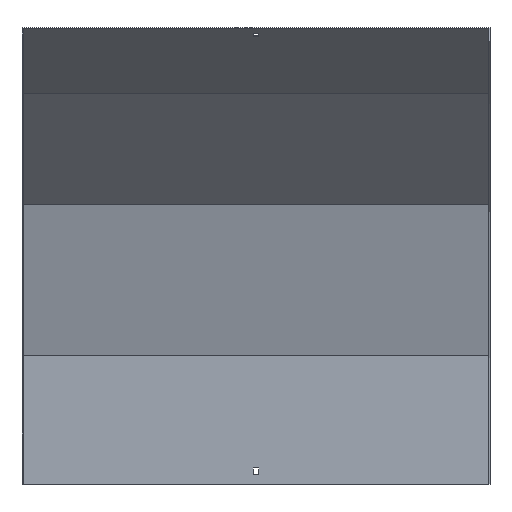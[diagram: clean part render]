
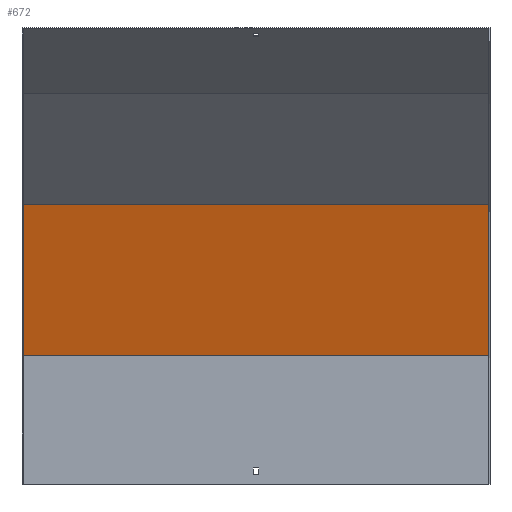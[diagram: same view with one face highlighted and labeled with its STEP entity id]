
A CAD part, front view. The second image highlights one B-rep face of the part: STEP entity #672.
In plain terms, the highlighted planar face has unit normal (0, -0.966, -0.259).
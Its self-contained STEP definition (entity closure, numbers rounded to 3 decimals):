
#32 = VECTOR ( 'NONE', #581, 1000. ) ;
#40 = VECTOR ( 'NONE', #953, 1000. ) ;
#43 = EDGE_CURVE ( 'NONE', #499, #482, #696, .T. ) ;
#51 = ORIENTED_EDGE ( 'NONE', *, *, #940, .T. ) ;
#139 = DIRECTION ( 'NONE',  ( 0., -0.966, -0.259 ) ) ;
#167 = DIRECTION ( 'NONE',  ( -1., 0., 0. ) ) ;
#219 = ORIENTED_EDGE ( 'NONE', *, *, #43, .F. ) ;
#225 = CARTESIAN_POINT ( 'NONE',  ( 301.5, 17.87, 167.788 ) ) ;
#232 = LINE ( 'NONE', #316, #510 ) ;
#244 = DIRECTION ( 'NONE',  ( 0., -0.259, 0.966 ) ) ;
#268 = EDGE_CURVE ( 'NONE', #482, #756, #820, .T. ) ;
#289 = CARTESIAN_POINT ( 'NONE',  ( -300., 58.62, 15.707 ) ) ;
#316 = CARTESIAN_POINT ( 'NONE',  ( 300., 58.62, 15.707 ) ) ;
#346 = ORIENTED_EDGE ( 'NONE', *, *, #883, .T. ) ;
#362 = AXIS2_PLACEMENT_3D ( 'NONE', #225, #139, #824 ) ;
#399 = VECTOR ( 'NONE', #167, 1000. ) ;
#438 = CARTESIAN_POINT ( 'NONE',  ( -300., -33.883, 360.932 ) ) ;
#479 = LINE ( 'NONE', #704, #40 ) ;
#480 = CARTESIAN_POINT ( 'NONE',  ( 300., -33.883, 360.932 ) ) ;
#482 = VERTEX_POINT ( 'NONE', #924 ) ;
#499 = VERTEX_POINT ( 'NONE', #627 ) ;
#510 = VECTOR ( 'NONE', #244, 1000. ) ;
#521 = VERTEX_POINT ( 'NONE', #480 ) ;
#527 = ORIENTED_EDGE ( 'NONE', *, *, #268, .F. ) ;
#581 = DIRECTION ( 'NONE',  ( 0., -0.259, 0.966 ) ) ;
#627 = CARTESIAN_POINT ( 'NONE',  ( 300., 18.5, 165.436 ) ) ;
#672 = ADVANCED_FACE ( 'NONE', ( #828 ), #981, .T. ) ;
#696 = LINE ( 'NONE', #841, #399 ) ;
#704 = CARTESIAN_POINT ( 'NONE',  ( 301.5, -33.883, 360.932 ) ) ;
#756 = VERTEX_POINT ( 'NONE', #438 ) ;
#820 = LINE ( 'NONE', #289, #32 ) ;
#824 = DIRECTION ( 'NONE',  ( 0., 0.259, -0.966 ) ) ;
#828 = FACE_OUTER_BOUND ( 'NONE', #933, .T. ) ;
#841 = CARTESIAN_POINT ( 'NONE',  ( 301.5, 18.5, 165.436 ) ) ;
#883 = EDGE_CURVE ( 'NONE', #499, #521, #232, .T. ) ;
#924 = CARTESIAN_POINT ( 'NONE',  ( -300., 18.5, 165.436 ) ) ;
#933 = EDGE_LOOP ( 'NONE', ( #527, #219, #346, #51 ) ) ;
#940 = EDGE_CURVE ( 'NONE', #521, #756, #479, .T. ) ;
#953 = DIRECTION ( 'NONE',  ( -1., 0., 0. ) ) ;
#981 = PLANE ( 'NONE',  #362 ) ;
